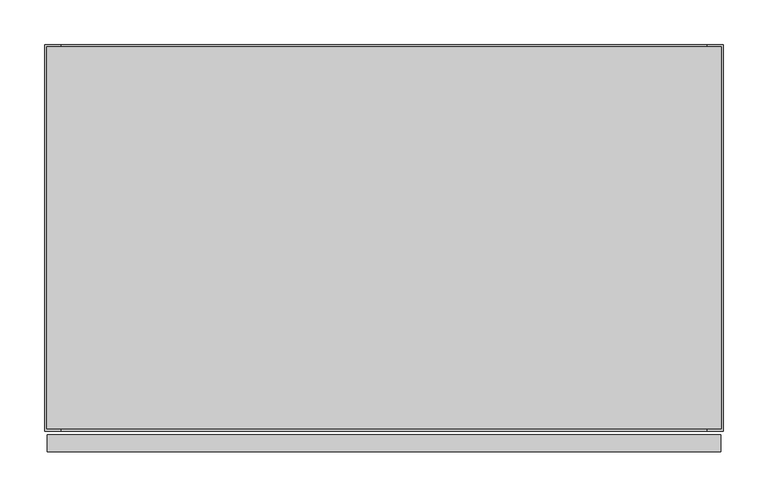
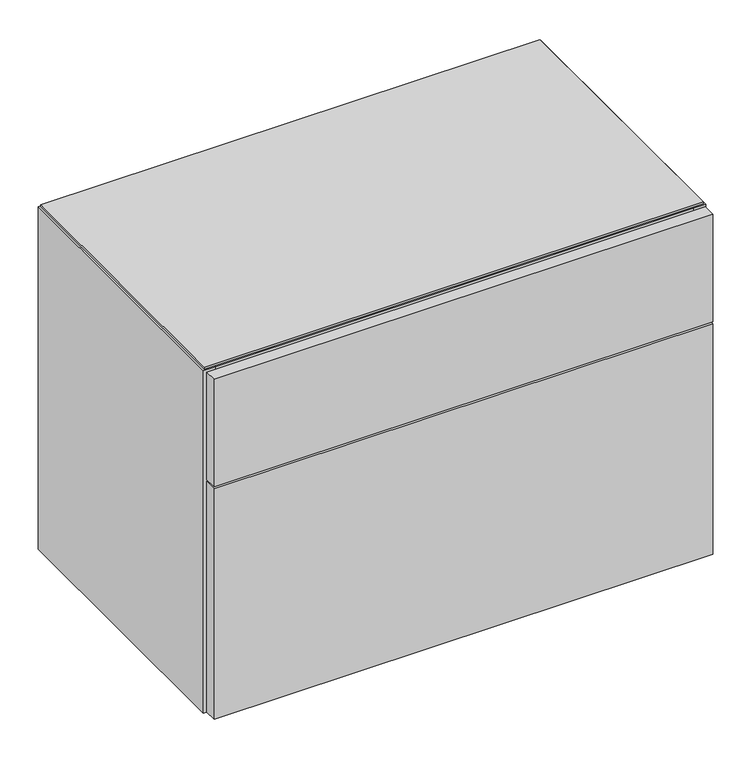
"""IFC4 building model written with IfcOpenShell, lengths in millimetres: furniture geometry, Geiger_GeigerOneCasegoods_LowStorage1Box1File : Vertical Veneer 30Wx18Dx21.75H."""

from ifc_helpers import new_model, si_unit, point, frame, origin, place, context, project, spatial, polyline, circle_curve, ellipse_curve, trimmed, outline, extrude, source, transform, mapped, element, save
from ifc_brep_helpers import plane_surface, cylinder_surface, revolved_surface, advanced_brep


def furniture_d10a9d43(model_context):
    return source(origin(), model_context, "Body", "SolidModel", [
        extrude(outline(polyline([(19.0, -19.5), (743.0, -19.5), (743.0, -434.0), (19.0, -434.0), (19.0, -19.5)])), frame((0.0, 0.0, 73.2), z_axis=(0.0, 0.0, 1.0), x_axis=(1.0, 0.0, 0.0)), (0.0, 0.0, 1.0), 19.5072),
        extrude(outline(polyline([(3.0, -438.0), (759.0, -438.0), (759.0, -457.2), (3.0, -457.2), (3.0, -438.0)])), frame((0.0, 0.0, 15.7), z_axis=(0.0, 0.0, 1.0), x_axis=(1.0, 0.0, 0.0)), (0.0, 0.0, 1.0), 370.0),
        extrude(outline(polyline([(3.0, -438.0), (759.0, -438.0), (759.0, -457.2), (3.0, -457.2), (3.0, -438.0)])), frame((0.0, 0.0, 388.7), z_axis=(0.0, 0.0, 1.0), x_axis=(1.0, 0.0, 0.0)), (0.0, 0.0, 1.0), 172.2),
        extrude(outline(polyline([(19.0, -19.5), (743.0, -19.5), (743.0, -414.5), (19.0, -414.5), (19.0, -19.5)])), frame((0.0, 0.0, 12.7), z_axis=(0.0, 0.0, 1.0), x_axis=(1.0, 0.0, 0.0)), (0.0, 0.0, 1.0), 19.5),
        extrude(outline(polyline([(759.46, -2.54), (759.46, -431.46), (2.54, -431.46), (2.54, -2.54), (759.46, -2.54)])), frame((0.0, 0.0, 561.7), z_axis=(0.0, 0.0, 1.0), x_axis=(1.0, 0.0, 0.0)), (0.0, 0.0, 1.0), 3.2766),
        extrude(outline(polyline([(19.0, -95.7), (743.0, -95.7), (743.0, -434.0), (19.0, -434.0), (19.0, -95.7)])), frame((0.0, 0.0, 542.2), z_axis=(0.0, 0.0, 1.0), x_axis=(1.0, 0.0, 0.0)), (0.0, 0.0, 1.0), 19.5),
        extrude(outline(polyline([(743.0, -19.5), (19.0, -19.5), (19.0, 0.0), (743.0, 0.0), (743.0, -19.5)])), frame((0.0, 0.0, 12.7), z_axis=(0.0, 0.0, 1.0), x_axis=(1.0, 0.0, 0.0)), (0.0, 0.0, 1.0), 549.0),
        extrude(outline(polyline([(19.0, -414.5), (743.0, -414.5), (743.0, -434.0), (19.0, -434.0), (19.0, -414.5)])), frame((0.0, 0.0, 12.7), z_axis=(0.0, 0.0, 1.0), x_axis=(1.0, 0.0, 0.0)), (0.0, 0.0, 1.0), 60.5),
        extrude(outline(polyline([(19.0, -434.0), (0.0, -434.0), (0.0, -0.5), (19.0, -0.5), (19.0, -434.0)])), frame((0.0, 0.0, 12.7), z_axis=(0.0, 0.0, 1.0), x_axis=(1.0, 0.0, 0.0)), (0.0, 0.0, 1.0), 549.0),
        extrude(outline(polyline([(762.0, -434.0), (743.0, -434.0), (743.0, -0.5), (762.0, -0.5), (762.0, -434.0)])), frame((0.0, 0.0, 12.7), z_axis=(0.0, 0.0, 1.0), x_axis=(1.0, 0.0, 0.0)), (0.0, 0.0, 1.0), 549.0),
        advanced_brep(
        [(94.0575663, -376.5165105, 0.0), (71.9424337, -376.5165105, 0.0), (83.0, -376.5165105, 0.0), (94.0575663, -376.5165105, 9.5), (71.9424337, -376.5165105, 9.5), (87.066455, -376.5165105, 9.5), (78.933545, -376.5165105, 9.5), (87.066455, -376.5165105, 12.7), (78.933545, -376.5165105, 12.7), (83.0, -376.5165105, 12.7)],
        [
            (0, 1, circle_curve(frame((83.0, -376.5165105, 0.0), z_axis=(0.0, 0.0, -1.0), x_axis=(-1.0, 0.0, 0.0)), 11.0575663)),
            (1, 2),
            (2, 0),
            (1, 0, circle_curve(frame((83.0, -376.5165105, 0.0), z_axis=(0.0, 0.0, -1.0), x_axis=(-1.0, 0.0, 0.0)), 11.0575663)),
            (0, 3, circle_curve(frame((94.0575663, -376.5165105, 4.75), z_axis=(0.0, -1.0, 0.0), x_axis=(1.0, 0.0, 0.0)), 4.75)),
            (3, 4, circle_curve(frame((83.0, -376.5165105, 9.5), z_axis=(0.0, 0.0, -1.0), x_axis=(-1.0, 0.0, 0.0)), 11.0575663)),
            (4, 1, circle_curve(frame((71.9424337, -376.5165105, 4.75), z_axis=(0.0, -1.0, 0.0), x_axis=(-1.0, 0.0, 0.0)), 4.75)),
            (4, 3, circle_curve(frame((83.0, -376.5165105, 9.5), z_axis=(0.0, 0.0, -1.0), x_axis=(-1.0, 0.0, 0.0)), 11.0575663)),
            (3, 5),
            (5, 6, circle_curve(frame((83.0, -376.5165105, 9.5), z_axis=(0.0, 0.0, -1.0), x_axis=(-1.0, 0.0, 0.0)), 4.066455)),
            (6, 4),
            (6, 5, circle_curve(frame((83.0, -376.5165105, 9.5), z_axis=(0.0, 0.0, -1.0), x_axis=(-1.0, 0.0, 0.0)), 4.066455)),
            (5, 7),
            (7, 8, circle_curve(frame((83.0, -376.5165105, 12.7), z_axis=(0.0, 0.0, -1.0), x_axis=(-1.0, 0.0, 0.0)), 4.066455)),
            (8, 6),
            (8, 7, circle_curve(frame((83.0, -376.5165105, 12.7), z_axis=(0.0, 0.0, -1.0), x_axis=(-1.0, 0.0, 0.0)), 4.066455)),
            (7, 9),
            (9, 8),
        ],
        [
            plane_surface(frame((83.0, -376.5165105, 0.0), z_axis=(0.0, 0.0, -1.0), x_axis=(-1.0, 0.0, 0.0))),
            revolved_surface(trimmed(ellipse_curve(frame((71.9424337, -376.5165105, 4.75), z_axis=(0.0, 1.0, 0.0), x_axis=(-1.0, 0.0, 0.0)), 4.75, 4.75), [point((71.9424337, -376.5165105, 0.0))], [point((71.9424337, -376.5165105, 9.5))], True, "CARTESIAN"), (83.0, -376.5165105, 0.0), (0.0, 0.0, 1.0)),
            plane_surface(frame((83.0, -376.5165105, 9.5), z_axis=(0.0, 0.0, 1.0), x_axis=(-1.0, 0.0, 0.0))),
            cylinder_surface(frame((83.0, -376.5165105, 0.0), z_axis=(0.0, 0.0, 1.0), x_axis=(-1.0, 0.0, 0.0)), 4.066455),
            plane_surface(frame((83.0, -376.5165105, 12.7), z_axis=(0.0, 0.0, 1.0), x_axis=(-1.0, 0.0, 0.0))),
        ],
        [
            (0, [[1, 2, 3]]),
            (0, [[-2, 4, -3]]),
            (1, [[-1, 5, 6, 7]]),
            (1, [[-4, -7, 8, -5]]),
            (2, [[-6, 9, 10, 11]]),
            (2, [[-8, -11, 12, -9]]),
            (3, [[-10, 13, 14, 15]]),
            (3, [[-12, -15, 16, -13]]),
            (4, [[-14, 17, 18]]),
            (4, [[-16, -18, -17]]),
        ],
    ),
        advanced_brep(
        [(94.0575663, -127.0, 0.0), (71.9424337, -127.0, 0.0), (83.0, -127.0, 0.0), (94.0575663, -127.0, 9.5), (71.9424337, -127.0, 9.5), (87.066455, -127.0, 9.5), (78.933545, -127.0, 9.5), (87.066455, -127.0, 12.7), (78.933545, -127.0, 12.7), (83.0, -127.0, 12.7)],
        [
            (0, 1, circle_curve(frame((83.0, -127.0, 0.0), z_axis=(0.0, 0.0, -1.0), x_axis=(-1.0, 0.0, 0.0)), 11.0575663)),
            (1, 2),
            (2, 0),
            (1, 0, circle_curve(frame((83.0, -127.0, 0.0), z_axis=(0.0, 0.0, -1.0), x_axis=(-1.0, 0.0, 0.0)), 11.0575663)),
            (0, 3, circle_curve(frame((94.0575663, -127.0, 4.75), z_axis=(0.0, -1.0, 0.0), x_axis=(1.0, 0.0, 0.0)), 4.75)),
            (3, 4, circle_curve(frame((83.0, -127.0, 9.5), z_axis=(0.0, 0.0, -1.0), x_axis=(-1.0, 0.0, 0.0)), 11.0575663)),
            (4, 1, circle_curve(frame((71.9424337, -127.0, 4.75), z_axis=(0.0, -1.0, 0.0), x_axis=(-1.0, 0.0, 0.0)), 4.75)),
            (4, 3, circle_curve(frame((83.0, -127.0, 9.5), z_axis=(0.0, 0.0, -1.0), x_axis=(-1.0, 0.0, 0.0)), 11.0575663)),
            (3, 5),
            (5, 6, circle_curve(frame((83.0, -127.0, 9.5), z_axis=(0.0, 0.0, -1.0), x_axis=(-1.0, 0.0, 0.0)), 4.066455)),
            (6, 4),
            (6, 5, circle_curve(frame((83.0, -127.0, 9.5), z_axis=(0.0, 0.0, -1.0), x_axis=(-1.0, 0.0, 0.0)), 4.066455)),
            (5, 7),
            (7, 8, circle_curve(frame((83.0, -127.0, 12.7), z_axis=(0.0, 0.0, -1.0), x_axis=(-1.0, 0.0, 0.0)), 4.066455)),
            (8, 6),
            (8, 7, circle_curve(frame((83.0, -127.0, 12.7), z_axis=(0.0, 0.0, -1.0), x_axis=(-1.0, 0.0, 0.0)), 4.066455)),
            (7, 9),
            (9, 8),
        ],
        [
            plane_surface(frame((83.0, -127.0, 0.0), z_axis=(0.0, 0.0, -1.0), x_axis=(-1.0, 0.0, 0.0))),
            revolved_surface(trimmed(ellipse_curve(frame((71.9424337, -127.0, 4.75), z_axis=(0.0, 1.0, 0.0), x_axis=(-1.0, 0.0, 0.0)), 4.75, 4.75), [point((71.9424337, -127.0, 0.0))], [point((71.9424337, -127.0, 9.5))], True, "CARTESIAN"), (83.0, -127.0, 0.0), (0.0, 0.0, 1.0)),
            plane_surface(frame((83.0, -127.0, 9.5), z_axis=(0.0, 0.0, 1.0), x_axis=(-1.0, 0.0, 0.0))),
            cylinder_surface(frame((83.0, -127.0, 0.0), z_axis=(0.0, 0.0, 1.0), x_axis=(-1.0, 0.0, 0.0)), 4.066455),
            plane_surface(frame((83.0, -127.0, 12.7), z_axis=(0.0, 0.0, 1.0), x_axis=(-1.0, 0.0, 0.0))),
        ],
        [
            (0, [[1, 2, 3]]),
            (0, [[-2, 4, -3]]),
            (1, [[-1, 5, 6, 7]]),
            (1, [[-4, -7, 8, -5]]),
            (2, [[-6, 9, 10, 11]]),
            (2, [[-8, -11, 12, -9]]),
            (3, [[-10, 13, 14, 15]]),
            (3, [[-12, -15, 16, -13]]),
            (4, [[-14, 17, 18]]),
            (4, [[-16, -18, -17]]),
        ],
    ),
        advanced_brep(
        [(679.0, -376.5165105, 0.0), (690.0575663, -376.5165105, 0.0), (667.9424337, -376.5165105, 0.0), (690.0575663, -376.5165105, 9.5), (667.9424337, -376.5165105, 9.5), (683.066455, -376.5165105, 9.5), (674.933545, -376.5165105, 9.5), (683.066455, -376.5165105, 12.7), (674.933545, -376.5165105, 12.7), (679.0, -376.5165105, 12.7)],
        [
            (0, 1),
            (1, 2, circle_curve(frame((679.0, -376.5165105, 0.0), z_axis=(0.0, 0.0, -1.0), x_axis=(1.0, 0.0, 0.0)), 11.0575663)),
            (2, 0),
            (2, 1, circle_curve(frame((679.0, -376.5165105, 0.0), z_axis=(0.0, 0.0, -1.0), x_axis=(1.0, 0.0, 0.0)), 11.0575663)),
            (1, 3, circle_curve(frame((690.0575663, -376.5165105, 4.75), z_axis=(0.0, -1.0, 0.0), x_axis=(-1.0, 0.0, 0.0)), 4.75)),
            (3, 4, circle_curve(frame((679.0, -376.5165105, 9.5), z_axis=(0.0, 0.0, -1.0), x_axis=(1.0, 0.0, 0.0)), 11.0575663)),
            (4, 2, circle_curve(frame((667.9424337, -376.5165105, 4.75), z_axis=(0.0, -1.0, 0.0), x_axis=(1.0, 0.0, 0.0)), 4.75)),
            (4, 3, circle_curve(frame((679.0, -376.5165105, 9.5), z_axis=(0.0, 0.0, -1.0), x_axis=(1.0, 0.0, 0.0)), 11.0575663)),
            (3, 5),
            (5, 6, circle_curve(frame((679.0, -376.5165105, 9.5), z_axis=(0.0, 0.0, -1.0), x_axis=(1.0, 0.0, 0.0)), 4.066455)),
            (6, 4),
            (6, 5, circle_curve(frame((679.0, -376.5165105, 9.5), z_axis=(0.0, 0.0, -1.0), x_axis=(1.0, 0.0, 0.0)), 4.066455)),
            (5, 7),
            (7, 8, circle_curve(frame((679.0, -376.5165105, 12.7), z_axis=(0.0, 0.0, -1.0), x_axis=(1.0, 0.0, 0.0)), 4.066455)),
            (8, 6),
            (8, 7, circle_curve(frame((679.0, -376.5165105, 12.7), z_axis=(0.0, 0.0, -1.0), x_axis=(1.0, 0.0, 0.0)), 4.066455)),
            (7, 9),
            (9, 8),
        ],
        [
            plane_surface(frame((679.0, -376.5165105, 0.0), z_axis=(0.0, 0.0, -1.0), x_axis=(1.0, 0.0, 0.0))),
            revolved_surface(trimmed(ellipse_curve(frame((690.0575663, -376.5165105, 4.75), z_axis=(0.0, 1.0, 0.0), x_axis=(-1.0, 0.0, 0.0)), 4.75, 4.75), [point((690.0575663, -376.5165105, 9.5))], [point((690.0575663, -376.5165105, 0.0))], True, "CARTESIAN"), (679.0, -376.5165105, 0.0), (0.0, 0.0, -1.0)),
            plane_surface(frame((679.0, -376.5165105, 9.5), z_axis=(0.0, 0.0, 1.0), x_axis=(1.0, 0.0, 0.0))),
            cylinder_surface(frame((679.0, -376.5165105, 0.0), z_axis=(0.0, 0.0, -1.0), x_axis=(1.0, 0.0, 0.0)), 4.066455),
            plane_surface(frame((679.0, -376.5165105, 12.7), z_axis=(0.0, 0.0, 1.0), x_axis=(1.0, 0.0, 0.0))),
        ],
        [
            (0, [[1, 2, 3]]),
            (0, [[-1, -3, 4]]),
            (1, [[-2, 5, 6, 7]]),
            (1, [[-4, -7, 8, -5]]),
            (2, [[-6, 9, 10, 11]]),
            (2, [[-8, -11, 12, -9]]),
            (3, [[-10, 13, 14, 15]]),
            (3, [[-12, -15, 16, -13]]),
            (4, [[-14, 17, 18]]),
            (4, [[-16, -18, -17]]),
        ],
    ),
        advanced_brep(
        [(679.0, -127.0, 0.0), (690.0575663, -127.0, 0.0), (667.9424337, -127.0, 0.0), (690.0575663, -127.0, 9.5), (667.9424337, -127.0, 9.5), (683.066455, -127.0, 9.5), (674.933545, -127.0, 9.5), (683.066455, -127.0, 12.7), (674.933545, -127.0, 12.7), (679.0, -127.0, 12.7)],
        [
            (0, 1),
            (1, 2, circle_curve(frame((679.0, -127.0, 0.0), z_axis=(0.0, 0.0, -1.0), x_axis=(1.0, 0.0, 0.0)), 11.0575663)),
            (2, 0),
            (2, 1, circle_curve(frame((679.0, -127.0, 0.0), z_axis=(0.0, 0.0, -1.0), x_axis=(1.0, 0.0, 0.0)), 11.0575663)),
            (1, 3, circle_curve(frame((690.0575663, -127.0, 4.75), z_axis=(0.0, -1.0, 0.0), x_axis=(-1.0, 0.0, 0.0)), 4.75)),
            (3, 4, circle_curve(frame((679.0, -127.0, 9.5), z_axis=(0.0, 0.0, -1.0), x_axis=(1.0, 0.0, 0.0)), 11.0575663)),
            (4, 2, circle_curve(frame((667.9424337, -127.0, 4.75), z_axis=(0.0, -1.0, 0.0), x_axis=(1.0, 0.0, 0.0)), 4.75)),
            (4, 3, circle_curve(frame((679.0, -127.0, 9.5), z_axis=(0.0, 0.0, -1.0), x_axis=(1.0, 0.0, 0.0)), 11.0575663)),
            (3, 5),
            (5, 6, circle_curve(frame((679.0, -127.0, 9.5), z_axis=(0.0, 0.0, -1.0), x_axis=(1.0, 0.0, 0.0)), 4.066455)),
            (6, 4),
            (6, 5, circle_curve(frame((679.0, -127.0, 9.5), z_axis=(0.0, 0.0, -1.0), x_axis=(1.0, 0.0, 0.0)), 4.066455)),
            (5, 7),
            (7, 8, circle_curve(frame((679.0, -127.0, 12.7), z_axis=(0.0, 0.0, -1.0), x_axis=(1.0, 0.0, 0.0)), 4.066455)),
            (8, 6),
            (8, 7, circle_curve(frame((679.0, -127.0, 12.7), z_axis=(0.0, 0.0, -1.0), x_axis=(1.0, 0.0, 0.0)), 4.066455)),
            (7, 9),
            (9, 8),
        ],
        [
            plane_surface(frame((679.0, -127.0, 0.0), z_axis=(0.0, 0.0, -1.0), x_axis=(1.0, 0.0, 0.0))),
            revolved_surface(trimmed(ellipse_curve(frame((690.0575663, -127.0, 4.75), z_axis=(0.0, 1.0, 0.0), x_axis=(-1.0, 0.0, 0.0)), 4.75, 4.75), [point((690.0575663, -127.0, 9.5))], [point((690.0575663, -127.0, 0.0))], True, "CARTESIAN"), (679.0, -127.0, 0.0), (0.0, 0.0, -1.0)),
            plane_surface(frame((679.0, -127.0, 9.5), z_axis=(0.0, 0.0, 1.0), x_axis=(1.0, 0.0, 0.0))),
            cylinder_surface(frame((679.0, -127.0, 0.0), z_axis=(0.0, 0.0, -1.0), x_axis=(1.0, 0.0, 0.0)), 4.066455),
            plane_surface(frame((679.0, -127.0, 12.7), z_axis=(0.0, 0.0, 1.0), x_axis=(1.0, 0.0, 0.0))),
        ],
        [
            (0, [[1, 2, 3]]),
            (0, [[-1, -3, 4]]),
            (1, [[-2, 5, 6, 7]]),
            (1, [[-4, -7, 8, -5]]),
            (2, [[-6, 9, 10, 11]]),
            (2, [[-8, -11, 12, -9]]),
            (3, [[-10, 13, 14, 15]]),
            (3, [[-12, -15, 16, -13]]),
            (4, [[-14, 17, 18]]),
            (4, [[-16, -18, -17]]),
        ],
    ),
    ])


if __name__ == "__main__":
    model = new_model("IFC4")
    model_context = context("Model", 3, world=origin())
    ifc_project = project(units=[si_unit("LENGTHUNIT", "METRE", prefix="MILLI")], contexts=[model_context])
    site = spatial("IfcSite", under=ifc_project)
    building = spatial("IfcBuilding", under=site)
    placement = place(None, origin())
    furniture_shape = furniture_d10a9d43(model_context)
    element("IfcFurniture", 1, ObjectType="Geiger_GeigerOneCasegoods_LowStorage1Box1File : Vertical Veneer 30Wx18Dx21.75H", at=placement, inside=building, context=model_context, shape_type="MappedRepresentation", body=[
        mapped(furniture_shape, transform((0.0, 0.0, 0.0), x_axis=(1.0, 0.0, 0.0), y_axis=(0.0, 1.0, 0.0), z_axis=(0.0, 0.0, 1.0))),
    ])
    save(model, "model.ifc")
